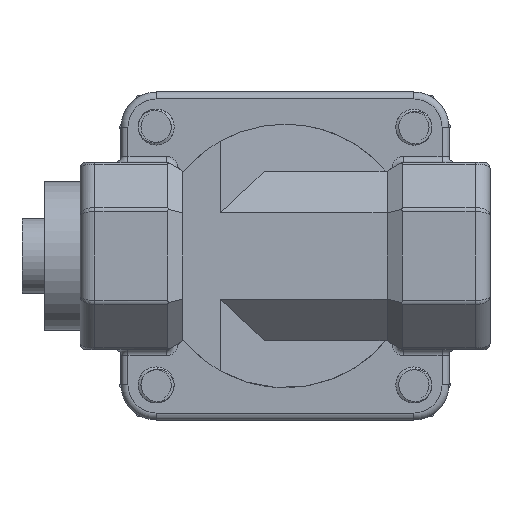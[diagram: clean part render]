
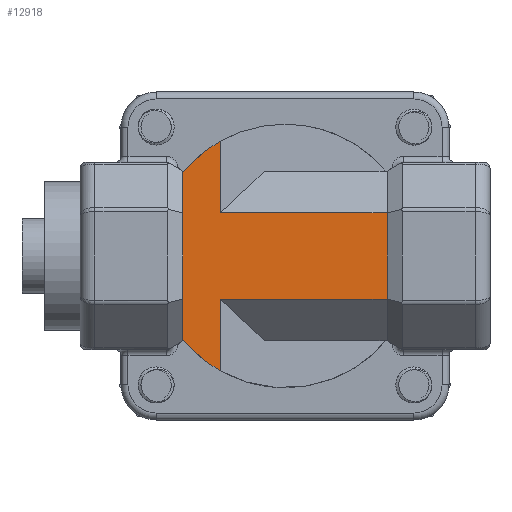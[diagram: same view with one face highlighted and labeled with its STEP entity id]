
A CAD part, front view. The second image highlights one B-rep face of the part: STEP entity #12918.
In plain terms, the highlighted planar face has unit normal (0, -1, 0).
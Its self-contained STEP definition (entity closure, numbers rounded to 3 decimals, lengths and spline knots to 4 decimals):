
#46 = LINE ( 'NONE', #6806, #4103 ) ;
#398 = VERTEX_POINT ( 'NONE', #22412 ) ;
#1090 = LINE ( 'NONE', #20578, #31116 ) ;
#1111 = DIRECTION ( 'NONE',  ( 0., 0., 1. ) ) ;
#1581 = VECTOR ( 'NONE', #29519, 39.3701 ) ;
#1659 = LINE ( 'NONE', #29576, #6259 ) ;
#2815 = CARTESIAN_POINT ( 'NONE',  ( 0.686, -1.3581, 0.2906 ) ) ;
#3864 = EDGE_CURVE ( 'NONE', #22155, #9841, #5337, .T. ) ;
#4103 = VECTOR ( 'NONE', #37594, 39.3701 ) ;
#4964 = AXIS2_PLACEMENT_3D ( 'NONE', #36200, #39478, #27369 ) ;
#5337 = LINE ( 'NONE', #26903, #15129 ) ;
#6028 = DIRECTION ( 'NONE',  ( 0., 0., 1. ) ) ;
#6185 = VERTEX_POINT ( 'NONE', #26509 ) ;
#6192 = CARTESIAN_POINT ( 'NONE',  ( -0.4344, -1.3581, -0.7722 ) ) ;
#6259 = VECTOR ( 'NONE', #7200, 39.3701 ) ;
#6482 = EDGE_CURVE ( 'NONE', #9051, #37627, #1659, .T. ) ;
#6806 = CARTESIAN_POINT ( 'NONE',  ( -0.686, -1.3581, 0. ) ) ;
#7062 = LINE ( 'NONE', #16491, #40329 ) ;
#7200 = DIRECTION ( 'NONE',  ( 0., 0., -1. ) ) ;
#7947 = DIRECTION ( 'NONE',  ( 0., -1., 0. ) ) ;
#8010 = CARTESIAN_POINT ( 'NONE',  ( 0., -1.3581, 0. ) ) ;
#8255 = DIRECTION ( 'NONE',  ( 1., 0., 0. ) ) ;
#9010 = CARTESIAN_POINT ( 'NONE',  ( -0.4344, -1.3581, 0. ) ) ;
#9051 = VERTEX_POINT ( 'NONE', #23694 ) ;
#9841 = VERTEX_POINT ( 'NONE', #2815 ) ;
#10402 = LINE ( 'NONE', #19854, #1581 ) ;
#12918 = ADVANCED_FACE ( 'Defeatured_0_57', ( #21296 ), #14713, .T. ) ;
#14713 = PLANE ( 'NONE',  #28394 ) ;
#14919 = DIRECTION ( 'NONE',  ( 0., 0., -1. ) ) ;
#15129 = VECTOR ( 'NONE', #18067, 39.3701 ) ;
#15345 = ORIENTED_EDGE ( 'NONE', *, *, #18920, .T. ) ;
#15441 = CIRCLE ( 'NONE', #4964, 0.886 ) ;
#15952 = CARTESIAN_POINT ( 'NONE',  ( -0.686, -1.3581, 0.5607 ) ) ;
#16361 = ORIENTED_EDGE ( 'NONE', *, *, #21798, .T. ) ;
#16491 = CARTESIAN_POINT ( 'NONE',  ( -0.686, -1.3581, 0. ) ) ;
#17951 = CARTESIAN_POINT ( 'NONE',  ( -0.686, -1.3581, 0. ) ) ;
#18067 = DIRECTION ( 'NONE',  ( 1., 0., 0. ) ) ;
#18381 = EDGE_CURVE ( 'NONE', #398, #29721, #21328, .T. ) ;
#18920 = EDGE_CURVE ( 'NONE', #39691, #37627, #15441, .T. ) ;
#19439 = VERTEX_POINT ( 'NONE', #40281 ) ;
#19854 = CARTESIAN_POINT ( 'NONE',  ( 0.686, -1.3581, 0.315 ) ) ;
#20540 = DIRECTION ( 'NONE',  ( 0., -1., 0. ) ) ;
#20578 = CARTESIAN_POINT ( 'NONE',  ( -2.4623, -1.3581, -0.2906 ) ) ;
#21296 = FACE_OUTER_BOUND ( 'NONE', #26311, .T. ) ;
#21328 = CIRCLE ( 'NONE', #28536, 0.886 ) ;
#21557 = LINE ( 'NONE', #9010, #34681 ) ;
#21798 = EDGE_CURVE ( 'NONE', #19439, #9841, #10402, .T. ) ;
#22155 = VERTEX_POINT ( 'NONE', #24921 ) ;
#22412 = CARTESIAN_POINT ( 'NONE',  ( -0.4344, -1.3581, 0.7722 ) ) ;
#22543 = EDGE_CURVE ( 'NONE', #9051, #19439, #1090, .T. ) ;
#22585 = ORIENTED_EDGE ( 'NONE', *, *, #6482, .F. ) ;
#23694 = CARTESIAN_POINT ( 'NONE',  ( -0.4344, -1.3581, -0.2906 ) ) ;
#24320 = LINE ( 'NONE', #17951, #33349 ) ;
#24605 = CARTESIAN_POINT ( 'NONE',  ( -0.686, -1.3581, -0.5607 ) ) ;
#24921 = CARTESIAN_POINT ( 'NONE',  ( -0.4344, -1.3581, 0.2906 ) ) ;
#25321 = ORIENTED_EDGE ( 'NONE', *, *, #28096, .T. ) ;
#26311 = EDGE_LOOP ( 'NONE', ( #15345, #22585, #37211, #16361, #39830, #36348, #36472, #36215, #25321, #31152 ) ) ;
#26509 = CARTESIAN_POINT ( 'NONE',  ( -0.686, -1.3581, 0.2906 ) ) ;
#26681 = EDGE_CURVE ( 'NONE', #39691, #37002, #7062, .T. ) ;
#26903 = CARTESIAN_POINT ( 'NONE',  ( -2.4623, -1.3581, 0.2906 ) ) ;
#27369 = DIRECTION ( 'NONE',  ( 0., 0., -1. ) ) ;
#28096 = EDGE_CURVE ( 'NONE', #6185, #37002, #46, .T. ) ;
#28394 = AXIS2_PLACEMENT_3D ( 'NONE', #39764, #7947, #14919 ) ;
#28536 = AXIS2_PLACEMENT_3D ( 'NONE', #8010, #20540, #39012 ) ;
#28700 = CARTESIAN_POINT ( 'NONE',  ( -0.686, -1.3581, -0.2906 ) ) ;
#29519 = DIRECTION ( 'NONE',  ( 0., 0., 1. ) ) ;
#29576 = CARTESIAN_POINT ( 'NONE',  ( -0.4344, -1.3581, 0. ) ) ;
#29721 = VERTEX_POINT ( 'NONE', #15952 ) ;
#31116 = VECTOR ( 'NONE', #8255, 39.3701 ) ;
#31152 = ORIENTED_EDGE ( 'NONE', *, *, #26681, .F. ) ;
#31833 = EDGE_CURVE ( 'NONE', #398, #22155, #21557, .T. ) ;
#33349 = VECTOR ( 'NONE', #6028, 39.3701 ) ;
#34061 = DIRECTION ( 'NONE',  ( 0., 0., -1. ) ) ;
#34681 = VECTOR ( 'NONE', #34061, 39.3701 ) ;
#35243 = EDGE_CURVE ( 'NONE', #6185, #29721, #24320, .T. ) ;
#36200 = CARTESIAN_POINT ( 'NONE',  ( 0., -1.3581, 0. ) ) ;
#36215 = ORIENTED_EDGE ( 'NONE', *, *, #35243, .F. ) ;
#36348 = ORIENTED_EDGE ( 'NONE', *, *, #31833, .F. ) ;
#36472 = ORIENTED_EDGE ( 'NONE', *, *, #18381, .T. ) ;
#37002 = VERTEX_POINT ( 'NONE', #28700 ) ;
#37211 = ORIENTED_EDGE ( 'NONE', *, *, #22543, .T. ) ;
#37594 = DIRECTION ( 'NONE',  ( 0., 0., -1. ) ) ;
#37627 = VERTEX_POINT ( 'NONE', #6192 ) ;
#39012 = DIRECTION ( 'NONE',  ( 0., 0., -1. ) ) ;
#39478 = DIRECTION ( 'NONE',  ( 0., -1., 0. ) ) ;
#39691 = VERTEX_POINT ( 'NONE', #24605 ) ;
#39764 = CARTESIAN_POINT ( 'NONE',  ( -2.4623, -1.3581, 0.2906 ) ) ;
#39830 = ORIENTED_EDGE ( 'NONE', *, *, #3864, .F. ) ;
#40281 = CARTESIAN_POINT ( 'NONE',  ( 0.686, -1.3581, -0.2906 ) ) ;
#40329 = VECTOR ( 'NONE', #1111, 39.3701 ) ;
